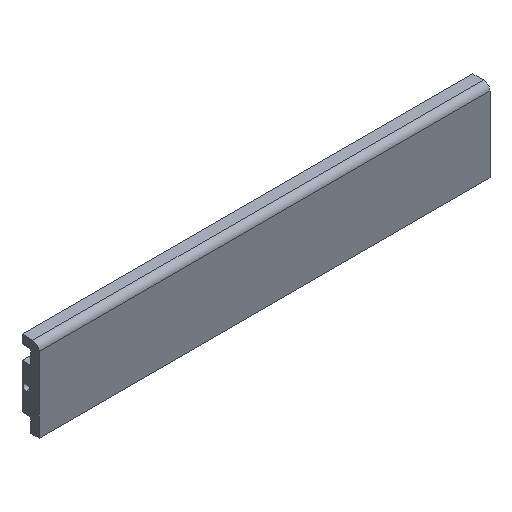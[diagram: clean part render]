
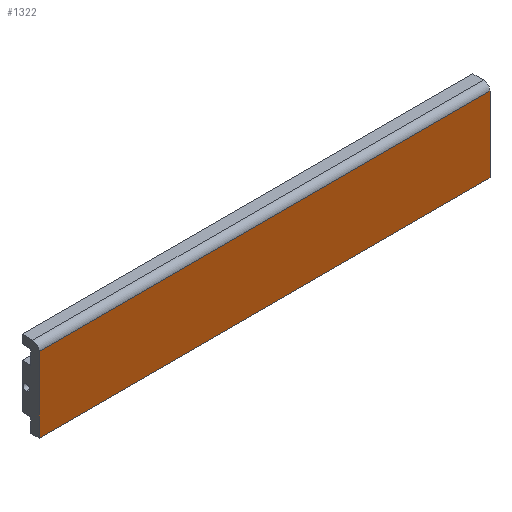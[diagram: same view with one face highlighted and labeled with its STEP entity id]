
A CAD part, isometric view. The second image highlights one B-rep face of the part: STEP entity #1322.
In plain terms, the highlighted planar face has unit normal (0, -1, 0).
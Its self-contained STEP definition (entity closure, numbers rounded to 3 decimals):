
#24 = LINE ( 'NONE', #172, #1564 ) ;
#40 = EDGE_LOOP ( 'NONE', ( #379, #1637, #445, #714 ) ) ;
#148 = DIRECTION ( 'NONE',  ( 0., 1., 0. ) ) ;
#172 = CARTESIAN_POINT ( 'NONE',  ( 52.5, 0., 39.5 ) ) ;
#176 = LINE ( 'NONE', #1517, #1105 ) ;
#286 = FACE_OUTER_BOUND ( 'NONE', #40, .T. ) ;
#296 = AXIS2_PLACEMENT_3D ( 'NONE', #718, #148, #1620 ) ;
#317 = DIRECTION ( 'NONE',  ( -1., 0., 0. ) ) ;
#379 = ORIENTED_EDGE ( 'NONE', *, *, #1850, .T. ) ;
#439 = CARTESIAN_POINT ( 'NONE',  ( -52.5, 0., 22. ) ) ;
#445 = ORIENTED_EDGE ( 'NONE', *, *, #1466, .F. ) ;
#714 = ORIENTED_EDGE ( 'NONE', *, *, #1952, .T. ) ;
#718 = CARTESIAN_POINT ( 'NONE',  ( 52.5, 0., 22. ) ) ;
#797 = EDGE_CURVE ( 'NONE', #816, #1203, #1521, .T. ) ;
#816 = VERTEX_POINT ( 'NONE', #1442 ) ;
#836 = CARTESIAN_POINT ( 'NONE',  ( -52.5, 0., 22. ) ) ;
#844 = CARTESIAN_POINT ( 'NONE',  ( 52.5, 0., 22. ) ) ;
#1017 = PLANE ( 'NONE',  #296 ) ;
#1058 = VECTOR ( 'NONE', #1286, 1000. ) ;
#1105 = VECTOR ( 'NONE', #1386, 1000. ) ;
#1127 = LINE ( 'NONE', #439, #1372 ) ;
#1203 = VERTEX_POINT ( 'NONE', #836 ) ;
#1286 = DIRECTION ( 'NONE',  ( -1., 0., 0. ) ) ;
#1322 = ADVANCED_FACE ( 'NONE', ( #286 ), #1017, .F. ) ;
#1372 = VECTOR ( 'NONE', #1650, 1000. ) ;
#1386 = DIRECTION ( 'NONE',  ( 0., 0., -1. ) ) ;
#1396 = VERTEX_POINT ( 'NONE', #1474 ) ;
#1442 = CARTESIAN_POINT ( 'NONE',  ( 52.5, 0., 22. ) ) ;
#1464 = VERTEX_POINT ( 'NONE', #1830 ) ;
#1466 = EDGE_CURVE ( 'NONE', #1464, #816, #176, .T. ) ;
#1474 = CARTESIAN_POINT ( 'NONE',  ( -52.5, 0., 39.5 ) ) ;
#1517 = CARTESIAN_POINT ( 'NONE',  ( 52.5, 0., 22. ) ) ;
#1521 = LINE ( 'NONE', #844, #1058 ) ;
#1564 = VECTOR ( 'NONE', #317, 1000. ) ;
#1620 = DIRECTION ( 'NONE',  ( 0., 0., 1. ) ) ;
#1637 = ORIENTED_EDGE ( 'NONE', *, *, #797, .F. ) ;
#1650 = DIRECTION ( 'NONE',  ( 0., 0., -1. ) ) ;
#1830 = CARTESIAN_POINT ( 'NONE',  ( 52.5, 0., 39.5 ) ) ;
#1850 = EDGE_CURVE ( 'NONE', #1396, #1203, #1127, .T. ) ;
#1952 = EDGE_CURVE ( 'NONE', #1464, #1396, #24, .T. ) ;
